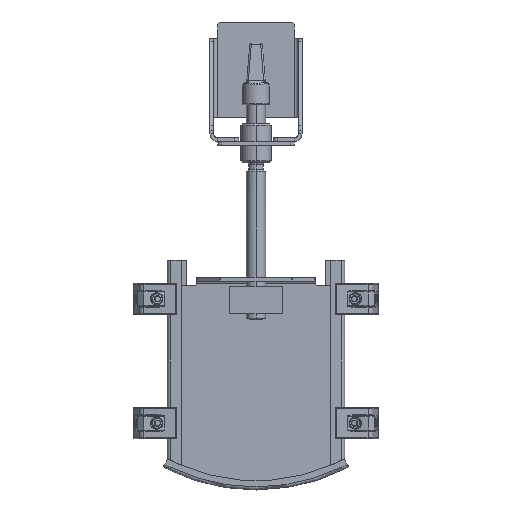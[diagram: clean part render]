
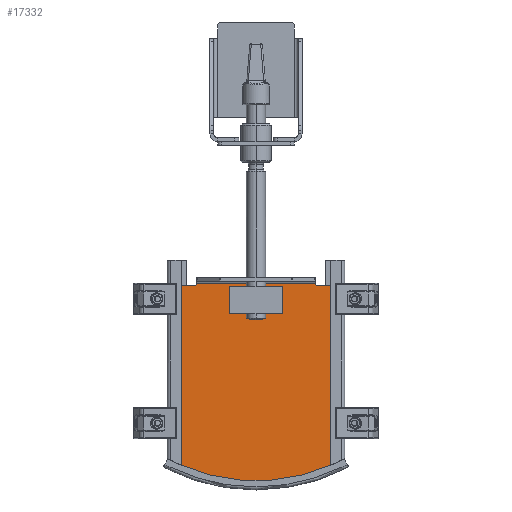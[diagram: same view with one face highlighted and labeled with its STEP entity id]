
A CAD part, top view. The second image highlights one B-rep face of the part: STEP entity #17332.
In plain terms, the highlighted planar face has unit normal (0, 0, 1).
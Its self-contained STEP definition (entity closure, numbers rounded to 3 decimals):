
#251 = AXIS2_PLACEMENT_3D ( 'NONE', #8391, #21818, #10935 ) ;
#495 = EDGE_CURVE ( 'NONE', #902, #12044, #25733, .T. ) ;
#570 = DIRECTION ( 'NONE',  ( -1., 0., 0. ) ) ;
#683 = ORIENTED_EDGE ( 'NONE', *, *, #12830, .T. ) ;
#902 = VERTEX_POINT ( 'NONE', #18624 ) ;
#1348 = VERTEX_POINT ( 'NONE', #23680 ) ;
#1820 = VERTEX_POINT ( 'NONE', #12749 ) ;
#1877 = VECTOR ( 'NONE', #22866, 1000. ) ;
#2065 = EDGE_LOOP ( 'NONE', ( #20270, #20332, #10302, #31640 ) ) ;
#2912 = CARTESIAN_POINT ( 'NONE',  ( -98.172, 255., 33. ) ) ;
#3077 = VECTOR ( 'NONE', #570, 1000. ) ;
#3234 = DIRECTION ( 'NONE',  ( 0., -1., 0. ) ) ;
#4137 = AXIS2_PLACEMENT_3D ( 'NONE', #15948, #15410, #18253 ) ;
#4472 = VECTOR ( 'NONE', #3234, 1000. ) ;
#4665 = ORIENTED_EDGE ( 'NONE', *, *, #18290, .T. ) ;
#4764 = VERTEX_POINT ( 'NONE', #31953 ) ;
#4861 = CARTESIAN_POINT ( 'NONE',  ( 97.5, 25.856, 33. ) ) ;
#5035 = DIRECTION ( 'NONE',  ( 0., -1., 0. ) ) ;
#5283 = DIRECTION ( 'NONE',  ( 1., 0., 0. ) ) ;
#5546 = VECTOR ( 'NONE', #15288, 1000. ) ;
#5799 = EDGE_CURVE ( 'NONE', #19897, #30635, #22738, .T. ) ;
#6639 = VERTEX_POINT ( 'NONE', #26139 ) ;
#6730 = LINE ( 'NONE', #17633, #15420 ) ;
#7109 = CARTESIAN_POINT ( 'NONE',  ( -97.5, 255., 33. ) ) ;
#7138 = FACE_OUTER_BOUND ( 'NONE', #8307, .T. ) ;
#7592 = LINE ( 'NONE', #18857, #21085 ) ;
#7639 = EDGE_CURVE ( 'NONE', #18960, #16092, #18995, .T. ) ;
#8307 = EDGE_LOOP ( 'NONE', ( #9175, #683, #32095, #22598, #29240, #18740, #31835, #4665 ) ) ;
#8391 = CARTESIAN_POINT ( 'NONE',  ( -105., 25.856, 33. ) ) ;
#8782 = VECTOR ( 'NONE', #34098, 1000. ) ;
#9175 = ORIENTED_EDGE ( 'NONE', *, *, #25913, .F. ) ;
#9239 = DIRECTION ( 'NONE',  ( 0., 0., 1. ) ) ;
#9296 = CIRCLE ( 'NONE', #4137, 2. ) ;
#9349 = EDGE_CURVE ( 'NONE', #1820, #18960, #25315, .T. ) ;
#9634 = CARTESIAN_POINT ( 'NONE',  ( 97.5, 20.236, 33. ) ) ;
#10302 = ORIENTED_EDGE ( 'NONE', *, *, #24134, .F. ) ;
#10789 = LINE ( 'NONE', #4861, #13257 ) ;
#10932 = VECTOR ( 'NONE', #17027, 1000. ) ;
#10935 = DIRECTION ( 'NONE',  ( 1., 0., 0. ) ) ;
#11779 = DIRECTION ( 'NONE',  ( 1., 0., 0. ) ) ;
#12044 = VERTEX_POINT ( 'NONE', #32694 ) ;
#12749 = CARTESIAN_POINT ( 'NONE',  ( -79., 255., 33. ) ) ;
#12830 = EDGE_CURVE ( 'NONE', #4764, #6639, #6730, .T. ) ;
#13257 = VECTOR ( 'NONE', #5035, 1000. ) ;
#14771 = CARTESIAN_POINT ( 'NONE',  ( 0., 245., 33. ) ) ;
#14861 = CIRCLE ( 'NONE', #26263, 245. ) ;
#15005 = LINE ( 'NONE', #22862, #8782 ) ;
#15288 = DIRECTION ( 'NONE',  ( -1., 0., 0. ) ) ;
#15305 = CARTESIAN_POINT ( 'NONE',  ( -34., 217.5, 33. ) ) ;
#15318 = VERTEX_POINT ( 'NONE', #26590 ) ;
#15385 = PLANE ( 'NONE',  #251 ) ;
#15410 = DIRECTION ( 'NONE',  ( 0., 0., -1. ) ) ;
#15420 = VECTOR ( 'NONE', #25715, 1000. ) ;
#15422 = CIRCLE ( 'NONE', #35390, 2. ) ;
#15948 = CARTESIAN_POINT ( 'NONE',  ( -79., 257., 33. ) ) ;
#16092 = VERTEX_POINT ( 'NONE', #26882 ) ;
#17027 = DIRECTION ( 'NONE',  ( 0., -1., 0. ) ) ;
#17332 = ADVANCED_FACE ( 'NONE', ( #7138, #18053 ), #15385, .T. ) ;
#17499 = CARTESIAN_POINT ( 'NONE',  ( 34., 252.5, 33. ) ) ;
#17633 = CARTESIAN_POINT ( 'NONE',  ( 98.172, 255., 33. ) ) ;
#18021 = EDGE_CURVE ( 'NONE', #1348, #1820, #9296, .T. ) ;
#18053 = FACE_BOUND ( 'NONE', #2065, .T. ) ;
#18253 = DIRECTION ( 'NONE',  ( 1., 0., 0. ) ) ;
#18290 = EDGE_CURVE ( 'NONE', #16092, #25391, #14861, .T. ) ;
#18362 = EDGE_CURVE ( 'NONE', #6639, #15318, #15422, .T. ) ;
#18624 = CARTESIAN_POINT ( 'NONE',  ( 34., 217.5, 33. ) ) ;
#18740 = ORIENTED_EDGE ( 'NONE', *, *, #9349, .T. ) ;
#18857 = CARTESIAN_POINT ( 'NONE',  ( -105., 257., 33. ) ) ;
#18960 = VERTEX_POINT ( 'NONE', #7109 ) ;
#18995 = LINE ( 'NONE', #21872, #4472 ) ;
#19897 = VERTEX_POINT ( 'NONE', #24068 ) ;
#20270 = ORIENTED_EDGE ( 'NONE', *, *, #27248, .F. ) ;
#20300 = DIRECTION ( 'NONE',  ( 1., 0., 0. ) ) ;
#20332 = ORIENTED_EDGE ( 'NONE', *, *, #5799, .F. ) ;
#20974 = CARTESIAN_POINT ( 'NONE',  ( -34., 252.5, 33. ) ) ;
#21085 = VECTOR ( 'NONE', #5283, 1000. ) ;
#21818 = DIRECTION ( 'NONE',  ( 0., 0., 1. ) ) ;
#21872 = CARTESIAN_POINT ( 'NONE',  ( -97.5, -12.001, 33. ) ) ;
#22598 = ORIENTED_EDGE ( 'NONE', *, *, #33692, .F. ) ;
#22738 = LINE ( 'NONE', #33492, #10932 ) ;
#22862 = CARTESIAN_POINT ( 'NONE',  ( -34., 217.5, 33. ) ) ;
#22866 = DIRECTION ( 'NONE',  ( 0., 1., 0. ) ) ;
#23680 = CARTESIAN_POINT ( 'NONE',  ( -77., 257., 33. ) ) ;
#24068 = CARTESIAN_POINT ( 'NONE',  ( -34., 252.5, 33. ) ) ;
#24134 = EDGE_CURVE ( 'NONE', #12044, #19897, #31514, .T. ) ;
#25186 = CARTESIAN_POINT ( 'NONE',  ( 79., 257., 33. ) ) ;
#25315 = LINE ( 'NONE', #2912, #3077 ) ;
#25391 = VERTEX_POINT ( 'NONE', #9634 ) ;
#25715 = DIRECTION ( 'NONE',  ( -1., 0., 0. ) ) ;
#25733 = LINE ( 'NONE', #17499, #1877 ) ;
#25913 = EDGE_CURVE ( 'NONE', #4764, #25391, #10789, .T. ) ;
#26139 = CARTESIAN_POINT ( 'NONE',  ( 79., 255., 33. ) ) ;
#26263 = AXIS2_PLACEMENT_3D ( 'NONE', #14771, #9239, #11779 ) ;
#26590 = CARTESIAN_POINT ( 'NONE',  ( 77., 257., 33. ) ) ;
#26882 = CARTESIAN_POINT ( 'NONE',  ( -97.5, 20.236, 33. ) ) ;
#27248 = EDGE_CURVE ( 'NONE', #30635, #902, #15005, .T. ) ;
#27820 = DIRECTION ( 'NONE',  ( 0., 0., -1. ) ) ;
#29240 = ORIENTED_EDGE ( 'NONE', *, *, #18021, .T. ) ;
#30635 = VERTEX_POINT ( 'NONE', #15305 ) ;
#31514 = LINE ( 'NONE', #20974, #5546 ) ;
#31640 = ORIENTED_EDGE ( 'NONE', *, *, #495, .F. ) ;
#31835 = ORIENTED_EDGE ( 'NONE', *, *, #7639, .T. ) ;
#31953 = CARTESIAN_POINT ( 'NONE',  ( 97.5, 255., 33. ) ) ;
#32095 = ORIENTED_EDGE ( 'NONE', *, *, #18362, .T. ) ;
#32694 = CARTESIAN_POINT ( 'NONE',  ( 34., 252.5, 33. ) ) ;
#33492 = CARTESIAN_POINT ( 'NONE',  ( -34., 252.5, 33. ) ) ;
#33692 = EDGE_CURVE ( 'NONE', #1348, #15318, #7592, .T. ) ;
#34098 = DIRECTION ( 'NONE',  ( 1., 0., 0. ) ) ;
#35390 = AXIS2_PLACEMENT_3D ( 'NONE', #25186, #27820, #20300 ) ;
